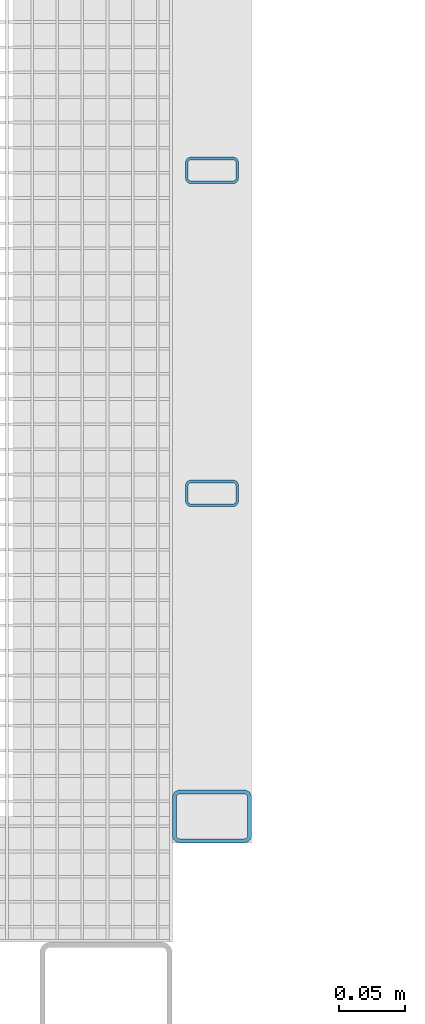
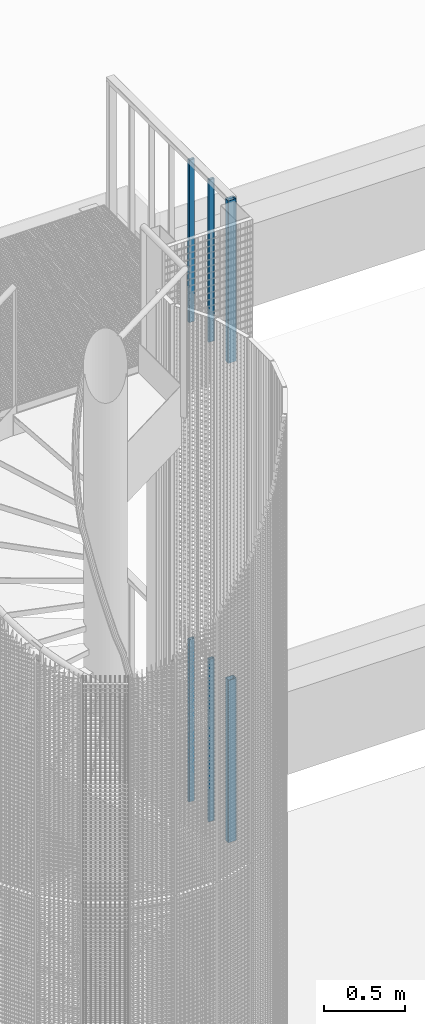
# One storey, part 71 of 1183: 6 columns, 6 elements without a shape of their own.
"""IFC2X3 building model written with IfcOpenShell, lengths in millimetres."""

from ifc_helpers import new_model, si_unit, frame, origin_with_axes, origin_2d_with_axis, place, context, subcontext, project, spatial, hollow_rectangle, extrude, material, type_object, element, aggregate, save


model = new_model("IFC2X3")

# Units and contexts
model_context = context("Model", 3, precision=1e-05, world=origin_with_axes())
body_context = subcontext(model_context, "Body", "Model", "MODEL_VIEW")
ifc_project = project(units=[si_unit("LENGTHUNIT", "METRE", prefix="MILLI"), si_unit("AREAUNIT", "SQUARE_METRE"), si_unit("VOLUMEUNIT", "CUBIC_METRE"), si_unit("MASSUNIT", "GRAM", prefix="KILO"), si_unit("TIMEUNIT", "SECOND"), si_unit("PLANEANGLEUNIT", "RADIAN"), si_unit("SOLIDANGLEUNIT", "STERADIAN"), si_unit("THERMODYNAMICTEMPERATUREUNIT", "DEGREE_CELSIUS"), si_unit("LUMINOUSINTENSITYUNIT", "LUMEN")], contexts=[model_context])

# Site, building, storey
site_placement = place(None, origin_with_axes())
site = spatial("IfcSite", under=ifc_project, at=site_placement, Name="Undefined", CompositionType="ELEMENT")
building_placement = place(site_placement, origin_with_axes())
building = spatial("IfcBuilding", under=site, at=building_placement, Name="Undefined", CompositionType="ELEMENT")
storey_placement = place(building_placement, origin_with_axes())
storey = spatial("IfcBuildingStorey", under=building, at=storey_placement, Name="Undefined", CompositionType="ELEMENT", Elevation=0.0)

# Assembly, column
assembly_1_placement = place(storey_placement, origin_with_axes())
assembly_1 = element("IfcElementAssembly", 1, at=assembly_1_placement, inside=storey, Name="STANCHION", AssemblyPlace="NOTDEFINED", PredefinedType="NOTDEFINED")
ifc_material = material(Name="Undefined/FE510D")
column_type_1 = type_object("IfcColumnType", Name="TUBE-R-40*20*2", PredefinedType="NOTDEFINED")
column_1_placement = place(assembly_1_placement, frame((23180.0682041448, 1683.34979617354, 17020.0), z_axis=(0.0, 0.0, 1.0), x_axis=(0.999999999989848, 4.50600000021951e-06, 0.0)))
column_1 = element("IfcColumn", 2, at=column_1_placement, type_object=column_type_1, material=ifc_material, Name="STANCHION", context=body_context, shape_type="SweptSolid", body=[
    extrude(hollow_rectangle(XDim=20.0, YDim=40.0, WallThickness=2.0, InnerFilletRadius=2.0, OuterFilletRadius=4.0, at=origin_2d_with_axis()), frame((0.0, 0.0, 1219.99999999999), z_axis=(0.0, 0.0, -1.0), x_axis=(0.0, 1.0, 0.0)), (0.0, 0.0, 1.0), 1220.0),
])
aggregate(assembly_1, [column_1])

assembly_2_placement = place(storey_placement, origin_with_axes())
assembly_2 = element("IfcElementAssembly", 3, at=assembly_2_placement, inside=storey, Name="STANCHION", AssemblyPlace="NOTDEFINED", PredefinedType="NOTDEFINED")
column_2_placement = place(assembly_2_placement, frame((23180.0693043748, 1439.17979617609, 17020.0), z_axis=(0.0, 0.0, 1.0), x_axis=(0.999999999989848, 4.50600000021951e-06, 0.0)))
column_2 = element("IfcColumn", 4, at=column_2_placement, type_object=column_type_1, material=ifc_material, Name="STANCHION", context=body_context, shape_type="SweptSolid", body=[
    extrude(hollow_rectangle(XDim=20.0, YDim=40.0, WallThickness=2.0, InnerFilletRadius=2.0, OuterFilletRadius=4.0, at=origin_2d_with_axis()), frame((0.0, 0.0, 1219.99999999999), z_axis=(0.0, 0.0, -1.0), x_axis=(0.0, 1.0, 0.0)), (0.0, 0.0, 1.0), 1220.0),
])
aggregate(assembly_2, [column_2])

assembly_3_placement = place(storey_placement, origin_with_axes())
assembly_3 = element("IfcElementAssembly", 5, at=assembly_3_placement, inside=storey, Name="STANCHION", AssemblyPlace="NOTDEFINED", PredefinedType="NOTDEFINED")
column_3_placement = place(assembly_3_placement, frame((23180.0682041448, 1683.34979617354, 13420.0), z_axis=(0.0, 0.0, 1.0), x_axis=(0.999999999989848, 4.50600000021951e-06, 0.0)))
column_3 = element("IfcColumn", 6, at=column_3_placement, type_object=column_type_1, material=ifc_material, Name="STANCHION", context=body_context, shape_type="SweptSolid", body=[
    extrude(hollow_rectangle(XDim=20.0, YDim=40.0, WallThickness=2.0, InnerFilletRadius=2.0, OuterFilletRadius=4.0, at=origin_2d_with_axis()), frame((0.0, 0.0, 1219.99999999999), z_axis=(0.0, 0.0, -1.0), x_axis=(0.0, 1.0, 0.0)), (0.0, 0.0, 1.0), 1220.0),
])
aggregate(assembly_3, [column_3])

assembly_4_placement = place(storey_placement, origin_with_axes())
assembly_4 = element("IfcElementAssembly", 7, at=assembly_4_placement, inside=storey, Name="STANCHION", AssemblyPlace="NOTDEFINED", PredefinedType="NOTDEFINED")
column_4_placement = place(assembly_4_placement, frame((23180.0693043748, 1439.17979617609, 13420.0), z_axis=(0.0, 0.0, 1.0), x_axis=(0.999999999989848, 4.50600000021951e-06, 0.0)))
column_4 = element("IfcColumn", 8, at=column_4_placement, type_object=column_type_1, material=ifc_material, Name="STANCHION", context=body_context, shape_type="SweptSolid", body=[
    extrude(hollow_rectangle(XDim=20.0, YDim=40.0, WallThickness=2.0, InnerFilletRadius=2.0, OuterFilletRadius=4.0, at=origin_2d_with_axis()), frame((0.0, 0.0, 1219.99999999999), z_axis=(0.0, 0.0, -1.0), x_axis=(0.0, 1.0, 0.0)), (0.0, 0.0, 1.0), 1220.0),
])
aggregate(assembly_4, [column_4])

assembly_5_placement = place(storey_placement, origin_with_axes())
assembly_5 = element("IfcElementAssembly", 9, at=assembly_5_placement, inside=storey, Name="STANCHION", AssemblyPlace="NOTDEFINED", PredefinedType="NOTDEFINED")
column_type_2 = type_object("IfcColumnType", Name="TUBE-R-60*40*3", PredefinedType="NOTDEFINED")
column_5_placement = place(assembly_5_placement, frame((23180.0704345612, 1195.01007484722, 17020.0), z_axis=(0.0, 0.0, 1.0), x_axis=(0.999999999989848, 4.50600000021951e-06, 0.0)))
column_5 = element("IfcColumn", 10, at=column_5_placement, type_object=column_type_2, material=ifc_material, Name="STANCHION", context=body_context, shape_type="SweptSolid", body=[
    extrude(hollow_rectangle(XDim=40.0, YDim=60.0, WallThickness=3.0, InnerFilletRadius=3.0, OuterFilletRadius=6.0, at=origin_2d_with_axis()), frame((0.0, 0.0, 1219.99999999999), z_axis=(0.0, 0.0, -1.0), x_axis=(0.0, 1.0, 0.0)), (0.0, 0.0, 1.0), 1220.0),
])
aggregate(assembly_5, [column_5])

assembly_6_placement = place(storey_placement, origin_with_axes())
assembly_6 = element("IfcElementAssembly", 11, at=assembly_6_placement, inside=storey, Name="STANCHION", AssemblyPlace="NOTDEFINED", PredefinedType="NOTDEFINED")
column_6_placement = place(assembly_6_placement, frame((23180.0704345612, 1195.01007484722, 13420.0), z_axis=(0.0, 0.0, 1.0), x_axis=(0.999999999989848, 4.50600000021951e-06, 0.0)))
column_6 = element("IfcColumn", 12, at=column_6_placement, type_object=column_type_2, material=ifc_material, Name="STANCHION", context=body_context, shape_type="SweptSolid", body=[
    extrude(hollow_rectangle(XDim=40.0, YDim=60.0, WallThickness=3.0, InnerFilletRadius=3.0, OuterFilletRadius=6.0, at=origin_2d_with_axis()), frame((0.0, 0.0, 1219.99999999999), z_axis=(0.0, 0.0, -1.0), x_axis=(0.0, 1.0, 0.0)), (0.0, 0.0, 1.0), 1220.0),
])
aggregate(assembly_6, [column_6])

save(model, "model.ifc")
